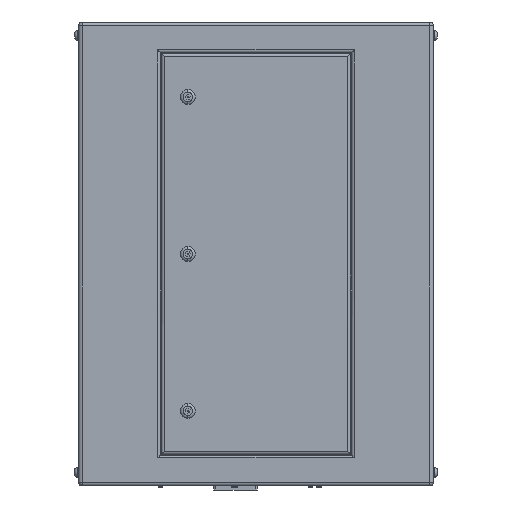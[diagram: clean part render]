
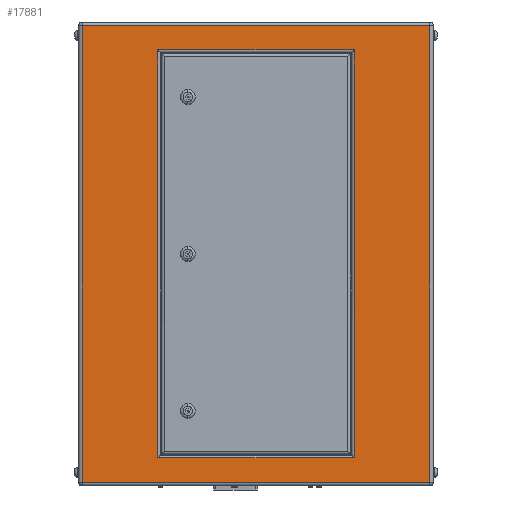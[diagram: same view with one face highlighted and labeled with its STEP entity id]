
A CAD part, left-side view. The second image highlights one B-rep face of the part: STEP entity #17881.
In plain terms, the highlighted planar face has unit normal (-1, 0, 0).
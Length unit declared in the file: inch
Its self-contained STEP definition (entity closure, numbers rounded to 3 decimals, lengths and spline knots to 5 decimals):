
#16 = ORIENTED_EDGE ( 'NONE', *, *, #10295, .T. ) ;
#585 = FACE_BOUND ( 'NONE', #7374, .T. ) ;
#1231 = DIRECTION ( 'NONE',  ( 0., 0., 1. ) ) ;
#2167 = AXIS2_PLACEMENT_3D ( 'NONE', #13110, #4724, #33333 ) ;
#2571 = CARTESIAN_POINT ( 'NONE',  ( -18., -7.2, -14.95 ) ) ;
#2730 = EDGE_CURVE ( 'NONE', #21154, #19515, #12983, .T. ) ;
#3810 = EDGE_CURVE ( 'NONE', #15471, #21154, #32426, .T. ) ;
#4207 = CARTESIAN_POINT ( 'NONE',  ( -18., -7.2, 14.95 ) ) ;
#4670 = CARTESIAN_POINT ( 'NONE',  ( -18., 7.2, -14.95 ) ) ;
#4724 = DIRECTION ( 'NONE',  ( 1., 0., 0. ) ) ;
#4824 = EDGE_CURVE ( 'NONE', #5433, #27153, #23609, .T. ) ;
#5433 = VERTEX_POINT ( 'NONE', #14651 ) ;
#6866 = CARTESIAN_POINT ( 'NONE',  ( -18., 13., 16.734 ) ) ;
#6884 = CARTESIAN_POINT ( 'NONE',  ( -18., 7.2, 14.75 ) ) ;
#7162 = CARTESIAN_POINT ( 'NONE',  ( -18., 12.734, 16.734 ) ) ;
#7205 = CARTESIAN_POINT ( 'NONE',  ( -18., 7., -14.95 ) ) ;
#7374 = EDGE_LOOP ( 'NONE', ( #13439, #31887, #33622, #9030 ) ) ;
#7580 = PLANE ( 'NONE',  #2167 ) ;
#8569 = VECTOR ( 'NONE', #35675, 39.37008 ) ;
#9030 = ORIENTED_EDGE ( 'NONE', *, *, #9640, .T. ) ;
#9640 = EDGE_CURVE ( 'NONE', #28158, #5433, #33043, .T. ) ;
#9802 = CARTESIAN_POINT ( 'NONE',  ( -18., -7., 14.95 ) ) ;
#10295 = EDGE_CURVE ( 'NONE', #19515, #29753, #30966, .T. ) ;
#11791 = CARTESIAN_POINT ( 'NONE',  ( -18., -12.734, 16.734 ) ) ;
#12584 = DIRECTION ( 'NONE',  ( 0., 0., 1. ) ) ;
#12983 = LINE ( 'NONE', #6866, #35104 ) ;
#13110 = CARTESIAN_POINT ( 'NONE',  ( -18., 13., -17. ) ) ;
#13439 = ORIENTED_EDGE ( 'NONE', *, *, #4824, .T. ) ;
#14651 = CARTESIAN_POINT ( 'NONE',  ( -18., 7.2, 14.95 ) ) ;
#15221 = CARTESIAN_POINT ( 'NONE',  ( -18., -12.734, 16.734 ) ) ;
#15330 = DIRECTION ( 'NONE',  ( 0., -1., 0. ) ) ;
#15471 = VERTEX_POINT ( 'NONE', #29391 ) ;
#16085 = DIRECTION ( 'NONE',  ( 0., 0., -1. ) ) ;
#16640 = CARTESIAN_POINT ( 'NONE',  ( -18., 12.734, -17. ) ) ;
#17847 = ORIENTED_EDGE ( 'NONE', *, *, #33668, .T. ) ;
#17881 = ADVANCED_FACE ( 'NONE', ( #585, #32393 ), #7580, .F. ) ;
#18168 = VECTOR ( 'NONE', #34240, 39.37008 ) ;
#18359 = ORIENTED_EDGE ( 'NONE', *, *, #3810, .T. ) ;
#18412 = LINE ( 'NONE', #7205, #28315 ) ;
#18456 = DIRECTION ( 'NONE',  ( 0., 1., 0. ) ) ;
#18814 = DIRECTION ( 'NONE',  ( 0., 1., 0. ) ) ;
#19515 = VERTEX_POINT ( 'NONE', #7162 ) ;
#21154 = VERTEX_POINT ( 'NONE', #11791 ) ;
#21170 = VECTOR ( 'NONE', #16085, 39.37008 ) ;
#22101 = VECTOR ( 'NONE', #15330, 39.37008 ) ;
#22670 = CARTESIAN_POINT ( 'NONE',  ( -18., 12.734, -16.734 ) ) ;
#23609 = LINE ( 'NONE', #9802, #22101 ) ;
#23733 = CARTESIAN_POINT ( 'NONE',  ( -18., 13., -16.734 ) ) ;
#25392 = VERTEX_POINT ( 'NONE', #2571 ) ;
#26078 = CARTESIAN_POINT ( 'NONE',  ( -18., -7.2, -14.75 ) ) ;
#26585 = EDGE_CURVE ( 'NONE', #27153, #25392, #31200, .T. ) ;
#27153 = VERTEX_POINT ( 'NONE', #4207 ) ;
#27736 = VECTOR ( 'NONE', #12584, 39.37008 ) ;
#27967 = EDGE_CURVE ( 'NONE', #25392, #28158, #18412, .T. ) ;
#28158 = VERTEX_POINT ( 'NONE', #4670 ) ;
#28315 = VECTOR ( 'NONE', #18814, 39.37008 ) ;
#28684 = ORIENTED_EDGE ( 'NONE', *, *, #2730, .T. ) ;
#29220 = LINE ( 'NONE', #23733, #8569 ) ;
#29391 = CARTESIAN_POINT ( 'NONE',  ( -18., -12.734, -16.734 ) ) ;
#29753 = VERTEX_POINT ( 'NONE', #22670 ) ;
#30592 = VECTOR ( 'NONE', #1231, 39.37008 ) ;
#30966 = LINE ( 'NONE', #16640, #21170 ) ;
#31200 = LINE ( 'NONE', #26078, #18168 ) ;
#31648 = EDGE_LOOP ( 'NONE', ( #17847, #18359, #28684, #16 ) ) ;
#31887 = ORIENTED_EDGE ( 'NONE', *, *, #26585, .T. ) ;
#32393 = FACE_OUTER_BOUND ( 'NONE', #31648, .T. ) ;
#32426 = LINE ( 'NONE', #15221, #27736 ) ;
#33043 = LINE ( 'NONE', #6884, #30592 ) ;
#33333 = DIRECTION ( 'NONE',  ( 0., 0., -1. ) ) ;
#33622 = ORIENTED_EDGE ( 'NONE', *, *, #27967, .T. ) ;
#33668 = EDGE_CURVE ( 'NONE', #29753, #15471, #29220, .T. ) ;
#34240 = DIRECTION ( 'NONE',  ( 0., 0., -1. ) ) ;
#35104 = VECTOR ( 'NONE', #18456, 39.37008 ) ;
#35675 = DIRECTION ( 'NONE',  ( 0., -1., 0. ) ) ;
